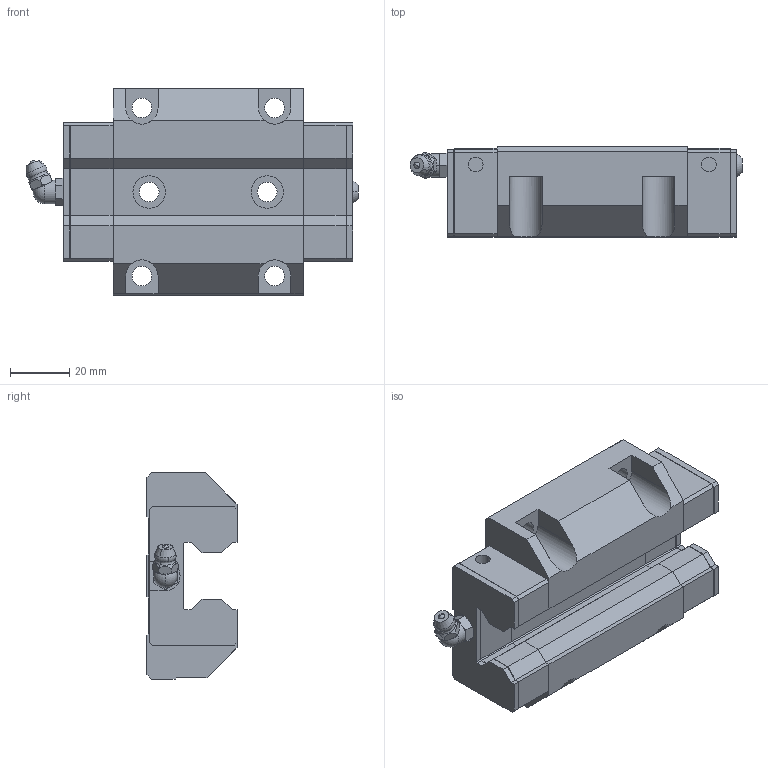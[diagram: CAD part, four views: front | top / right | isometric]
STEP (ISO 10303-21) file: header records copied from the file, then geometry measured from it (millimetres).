
FILE_DESCRIPTION (( 'STEP AP203' ), '1' );
FILE_NAME ('SRW25CC.STEP', '2025-07-11T05:30:04', ( 'Owner' ), ( 'Organization' ), 'SwSTEP 2.0', 'SolidWorks 2020', '' );
FILE_SCHEMA (( 'CONFIG_CONTROL_DESIGN' ));
Length unit declared in the file: millimetre
Products named in the file (1): SRW25CC
Bounding box: 112.5 x 30.5 x 70 mm (x, y, z)
Volume: 131994.7 mm3; surface area: 37260 mm2
Topology: 7 solids, 8 shells, 331 faces, 842 edges, 541 vertices
Faces by surface type: plane 257, cylinder 56, sphere 6, torus 6, cone 4, bspline 2
Entity records: 10350 total; most frequent: CARTESIAN_POINT 2258, ORIENTED_EDGE 1676, DIRECTION 1608, EDGE_CURVE 838, VECTOR 656, LINE 656, VERTEX_POINT 539, AXIS2_PLACEMENT_3D 476
